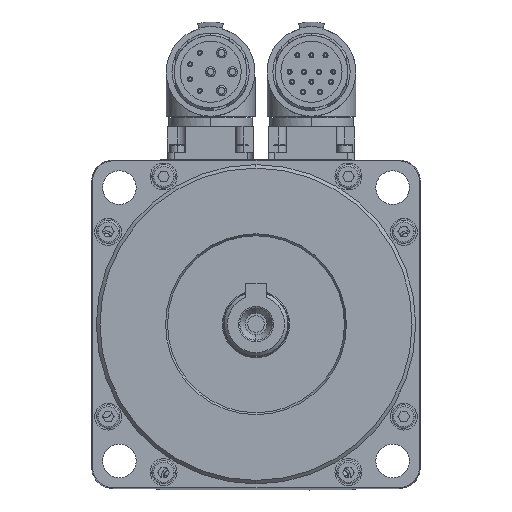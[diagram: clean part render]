
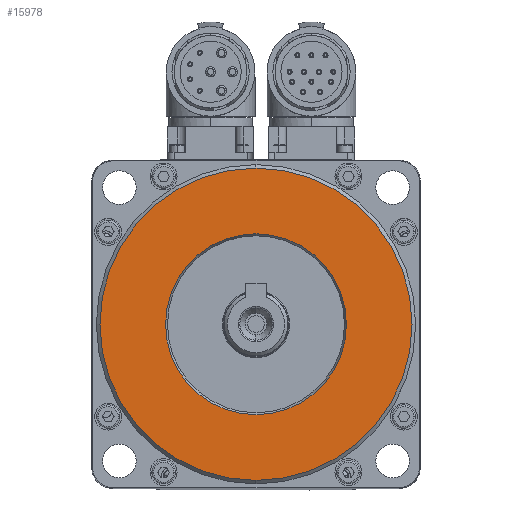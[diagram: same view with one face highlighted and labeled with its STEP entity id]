
A CAD part, top view. The second image highlights one B-rep face of the part: STEP entity #15978.
In plain terms, the highlighted planar face has unit normal (0, 0, 1).
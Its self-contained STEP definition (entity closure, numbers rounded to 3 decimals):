
#14514=CARTESIAN_POINT('',(0.,0.,75.864));
#14515=DIRECTION('',(0.,0.,1.));
#14516=DIRECTION('',(0.,1.,0.));
#14517=AXIS2_PLACEMENT_3D('',#14514,#14515,#14516);
#14519=CARTESIAN_POINT('',(0.,0.,75.864));
#14520=DIRECTION('',(0.,0.,1.));
#14521=DIRECTION('',(0.,-1.,0.));
#14522=AXIS2_PLACEMENT_3D('',#14519,#14520,#14521);
#14524=CARTESIAN_POINT('',(0.,0.,75.864));
#14525=DIRECTION('',(0.,0.,-1.));
#14526=DIRECTION('',(0.,-1.,0.));
#14527=AXIS2_PLACEMENT_3D('',#14524,#14525,#14526);
#14529=CARTESIAN_POINT('',(0.,0.,75.864));
#14530=DIRECTION('',(0.,0.,-1.));
#14531=DIRECTION('',(0.,1.,0.));
#14532=AXIS2_PLACEMENT_3D('',#14529,#14530,#14531);
#15436=CARTESIAN_POINT('',(0.,-26.908,75.864));
#15438=VERTEX_POINT('',#15436);
#15444=CARTESIAN_POINT('',(0.,-46.433,75.864));
#15445=CARTESIAN_POINT('',(0.,46.433,75.864));
#15446=VERTEX_POINT('',#15444);
#15447=VERTEX_POINT('',#15445);
#15573=CARTESIAN_POINT('',(0.,26.908,75.864));
#15574=VERTEX_POINT('',#15573);
#15963=CARTESIAN_POINT('',(0.,0.,75.864));
#15964=DIRECTION('',(0.,0.,-1.));
#15965=DIRECTION('',(0.,1.,0.));
#15966=AXIS2_PLACEMENT_3D('',#15963,#15964,#15965);
#15967=PLANE('',#15966);
#15969=ORIENTED_EDGE('',*,*,#15968,.F.);
#15971=ORIENTED_EDGE('',*,*,#15970,.F.);
#15972=EDGE_LOOP('',(#15969,#15971));
#15973=FACE_OUTER_BOUND('',#15972,.F.);
#15974=ORIENTED_EDGE('',*,*,#15957,.F.);
#15975=ORIENTED_EDGE('',*,*,#15942,.F.);
#15976=EDGE_LOOP('',(#15974,#15975));
#15977=FACE_BOUND('',#15976,.F.);
#15978=ADVANCED_FACE('',(#15973,#15977),#15967,.F.);
#14518=CIRCLE('',#14517,46.433);
#14523=CIRCLE('',#14522,46.433);
#14528=CIRCLE('',#14527,26.908);
#14533=CIRCLE('',#14532,26.908);
#15942=EDGE_CURVE('',#15574,#15438,#14533,.T.);
#15957=EDGE_CURVE('',#15438,#15574,#14528,.T.);
#15968=EDGE_CURVE('',#15447,#15446,#14518,.T.);
#15970=EDGE_CURVE('',#15446,#15447,#14523,.T.);
